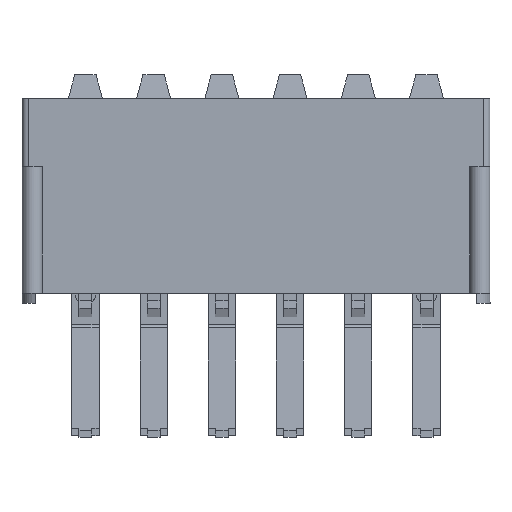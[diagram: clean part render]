
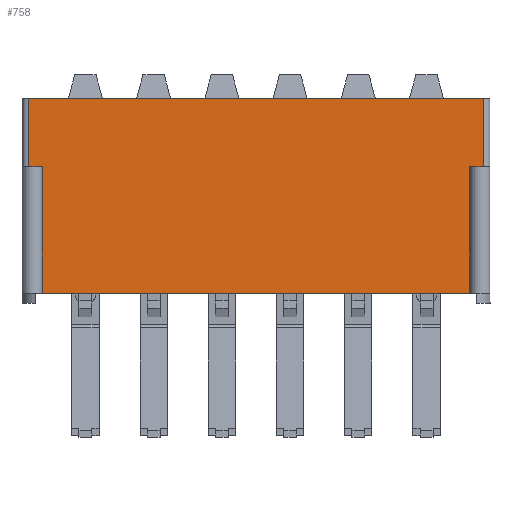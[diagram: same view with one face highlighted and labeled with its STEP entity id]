
A CAD part, front view. The second image highlights one B-rep face of the part: STEP entity #758.
In plain terms, the highlighted planar face has unit normal (0, -1, 0).
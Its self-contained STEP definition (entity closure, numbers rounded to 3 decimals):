
#286 = CARTESIAN_POINT ( 'NONE',  ( 0.25, -9.652, -7.239 ) ) ;
#758 = ADVANCED_FACE ( 'NONE', ( #18178 ), #18308, .T. ) ;
#1927 = DIRECTION ( 'NONE',  ( 0., 0., -1. ) ) ;
#2666 = DIRECTION ( 'NONE',  ( 0., 0., -1. ) ) ;
#2776 = CARTESIAN_POINT ( 'NONE',  ( 0.25, -9.652, 0. ) ) ;
#4058 = DIRECTION ( 'NONE',  ( 0., 0., 1. ) ) ;
#4480 = VECTOR ( 'NONE', #10159, 1000. ) ;
#4608 = VECTOR ( 'NONE', #18935, 1000. ) ;
#4704 = VERTEX_POINT ( 'NONE', #7119 ) ;
#4738 = LINE ( 'NONE', #22995, #18088 ) ;
#5377 = LINE ( 'NONE', #2776, #23717 ) ;
#5520 = VERTEX_POINT ( 'NONE', #8602 ) ;
#5635 = VECTOR ( 'NONE', #1927, 1000. ) ;
#5839 = CARTESIAN_POINT ( 'NONE',  ( 17.174, -9.652, 0. ) ) ;
#6411 = CARTESIAN_POINT ( 'NONE',  ( 17.174, -9.652, -7.239 ) ) ;
#7119 = CARTESIAN_POINT ( 'NONE',  ( 0.762, -9.652, -2.54 ) ) ;
#7353 = EDGE_CURVE ( 'NONE', #20736, #23338, #18413, .T. ) ;
#7502 = VECTOR ( 'NONE', #11111, 1000. ) ;
#7616 = ORIENTED_EDGE ( 'NONE', *, *, #7353, .T. ) ;
#7674 = EDGE_CURVE ( 'NONE', #23338, #10618, #7859, .T. ) ;
#7859 = LINE ( 'NONE', #6411, #12461 ) ;
#7961 = VERTEX_POINT ( 'NONE', #24569 ) ;
#8532 = EDGE_CURVE ( 'NONE', #22105, #5520, #4738, .T. ) ;
#8575 = DIRECTION ( 'NONE',  ( 0., -1., 0. ) ) ;
#8602 = CARTESIAN_POINT ( 'NONE',  ( 0.25, -9.652, 0. ) ) ;
#9152 = DIRECTION ( 'NONE',  ( 1., 0., 0. ) ) ;
#9336 = ORIENTED_EDGE ( 'NONE', *, *, #7674, .T. ) ;
#9548 = VERTEX_POINT ( 'NONE', #21222 ) ;
#9826 = EDGE_CURVE ( 'NONE', #4704, #22105, #10692, .T. ) ;
#9838 = EDGE_LOOP ( 'NONE', ( #20344, #14109, #12199, #7616, #9336, #25580, #9882, #21382 ) ) ;
#9882 = ORIENTED_EDGE ( 'NONE', *, *, #8532, .F. ) ;
#9909 = AXIS2_PLACEMENT_3D ( 'NONE', #286, #8575, #2666 ) ;
#10159 = DIRECTION ( 'NONE',  ( 1., 0., 0. ) ) ;
#10618 = VERTEX_POINT ( 'NONE', #5839 ) ;
#10692 = LINE ( 'NONE', #12910, #4608 ) ;
#11111 = DIRECTION ( 'NONE',  ( 0., 0., -1. ) ) ;
#11699 = CARTESIAN_POINT ( 'NONE',  ( 17.174, -9.652, -2.54 ) ) ;
#12199 = ORIENTED_EDGE ( 'NONE', *, *, #24815, .F. ) ;
#12461 = VECTOR ( 'NONE', #4058, 1000. ) ;
#12910 = CARTESIAN_POINT ( 'NONE',  ( 0.25, -9.652, -2.54 ) ) ;
#12994 = LINE ( 'NONE', #15473, #22691 ) ;
#13781 = CARTESIAN_POINT ( 'NONE',  ( 0.762, -9.652, -2.54 ) ) ;
#14109 = ORIENTED_EDGE ( 'NONE', *, *, #21807, .T. ) ;
#14691 = EDGE_CURVE ( 'NONE', #4704, #7961, #21780, .T. ) ;
#14866 = DIRECTION ( 'NONE',  ( 0., 0., 1. ) ) ;
#15473 = CARTESIAN_POINT ( 'NONE',  ( 0.25, -9.652, -7.239 ) ) ;
#16823 = EDGE_CURVE ( 'NONE', #5520, #10618, #5377, .T. ) ;
#18033 = CARTESIAN_POINT ( 'NONE',  ( 0.25, -9.652, -2.54 ) ) ;
#18088 = VECTOR ( 'NONE', #14866, 1000. ) ;
#18178 = FACE_OUTER_BOUND ( 'NONE', #9838, .T. ) ;
#18308 = PLANE ( 'NONE',  #9909 ) ;
#18413 = LINE ( 'NONE', #24478, #4480 ) ;
#18779 = CARTESIAN_POINT ( 'NONE',  ( 16.662, -9.652, -2.54 ) ) ;
#18799 = DIRECTION ( 'NONE',  ( 1., 0., 0. ) ) ;
#18935 = DIRECTION ( 'NONE',  ( -1., 0., 0. ) ) ;
#20344 = ORIENTED_EDGE ( 'NONE', *, *, #14691, .T. ) ;
#20736 = VERTEX_POINT ( 'NONE', #18779 ) ;
#21087 = LINE ( 'NONE', #25036, #7502 ) ;
#21222 = CARTESIAN_POINT ( 'NONE',  ( 16.662, -9.652, -7.239 ) ) ;
#21382 = ORIENTED_EDGE ( 'NONE', *, *, #9826, .F. ) ;
#21780 = LINE ( 'NONE', #13781, #5635 ) ;
#21807 = EDGE_CURVE ( 'NONE', #7961, #9548, #12994, .T. ) ;
#22105 = VERTEX_POINT ( 'NONE', #18033 ) ;
#22691 = VECTOR ( 'NONE', #9152, 1000. ) ;
#22995 = CARTESIAN_POINT ( 'NONE',  ( 0.25, -9.652, -7.239 ) ) ;
#23338 = VERTEX_POINT ( 'NONE', #11699 ) ;
#23717 = VECTOR ( 'NONE', #18799, 1000. ) ;
#24478 = CARTESIAN_POINT ( 'NONE',  ( 0.25, -9.652, -2.54 ) ) ;
#24569 = CARTESIAN_POINT ( 'NONE',  ( 0.762, -9.652, -7.239 ) ) ;
#24815 = EDGE_CURVE ( 'NONE', #20736, #9548, #21087, .T. ) ;
#25036 = CARTESIAN_POINT ( 'NONE',  ( 16.662, -9.652, -2.54 ) ) ;
#25580 = ORIENTED_EDGE ( 'NONE', *, *, #16823, .F. ) ;
